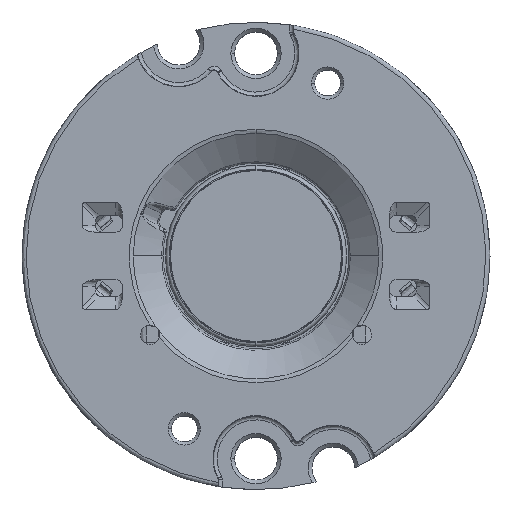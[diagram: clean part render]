
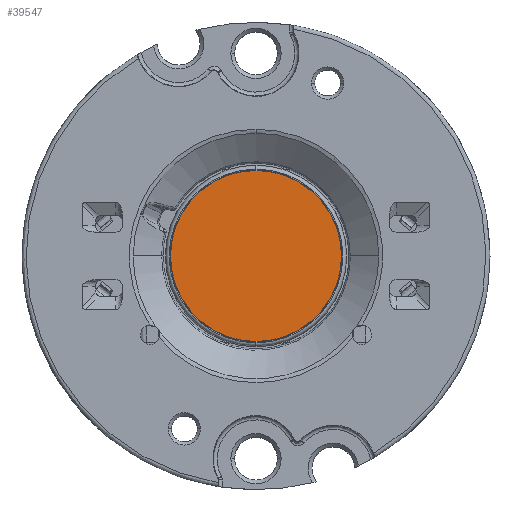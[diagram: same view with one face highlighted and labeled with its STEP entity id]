
A CAD part, top view. The second image highlights one B-rep face of the part: STEP entity #39547.
In plain terms, the highlighted planar face has unit normal (0, 0, 1).
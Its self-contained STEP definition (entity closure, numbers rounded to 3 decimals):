
#2311 = VERTEX_POINT ( 'NONE', #85389 ) ;
#2430 = ORIENTED_EDGE ( 'NONE', *, *, #76122, .T. ) ;
#3177 = DIRECTION ( 'NONE',  ( 0., 1., 0. ) ) ;
#6208 = CARTESIAN_POINT ( 'NONE',  ( 0., 0., 1.446 ) ) ;
#14073 = AXIS2_PLACEMENT_3D ( 'NONE', #76026, #26436, #84416 ) ;
#14503 = DIRECTION ( 'NONE',  ( 0., 1., 0. ) ) ;
#15632 = CARTESIAN_POINT ( 'NONE',  ( 0., -6.625, 1.446 ) ) ;
#18290 = AXIS2_PLACEMENT_3D ( 'NONE', #6208, #64089, #14503 ) ;
#26436 = DIRECTION ( 'NONE',  ( 0., 0., 1. ) ) ;
#33078 = EDGE_LOOP ( 'NONE', ( #84836, #2430 ) ) ;
#34721 = CIRCLE ( 'NONE', #43759, 6.625 ) ;
#39547 = ADVANCED_FACE ( 'NONE', ( #97552 ), #80423, .T. ) ;
#43759 = AXIS2_PLACEMENT_3D ( 'NONE', #102347, #52750, #3177 ) ;
#52750 = DIRECTION ( 'NONE',  ( 0., 0., 1. ) ) ;
#63279 = VERTEX_POINT ( 'NONE', #15632 ) ;
#64089 = DIRECTION ( 'NONE',  ( 0., 0., 1. ) ) ;
#76026 = CARTESIAN_POINT ( 'NONE',  ( 0., 0., 1.446 ) ) ;
#76122 = EDGE_CURVE ( 'NONE', #2311, #63279, #104649, .T. ) ;
#79374 = EDGE_CURVE ( 'NONE', #63279, #2311, #34721, .T. ) ;
#80423 = PLANE ( 'NONE',  #18290 ) ;
#84416 = DIRECTION ( 'NONE',  ( 0., 1., 0. ) ) ;
#84836 = ORIENTED_EDGE ( 'NONE', *, *, #79374, .T. ) ;
#85389 = CARTESIAN_POINT ( 'NONE',  ( 0., 6.625, 1.446 ) ) ;
#97552 = FACE_OUTER_BOUND ( 'NONE', #33078, .T. ) ;
#102347 = CARTESIAN_POINT ( 'NONE',  ( 0., 0., 1.446 ) ) ;
#104649 = CIRCLE ( 'NONE', #14073, 6.625 ) ;
